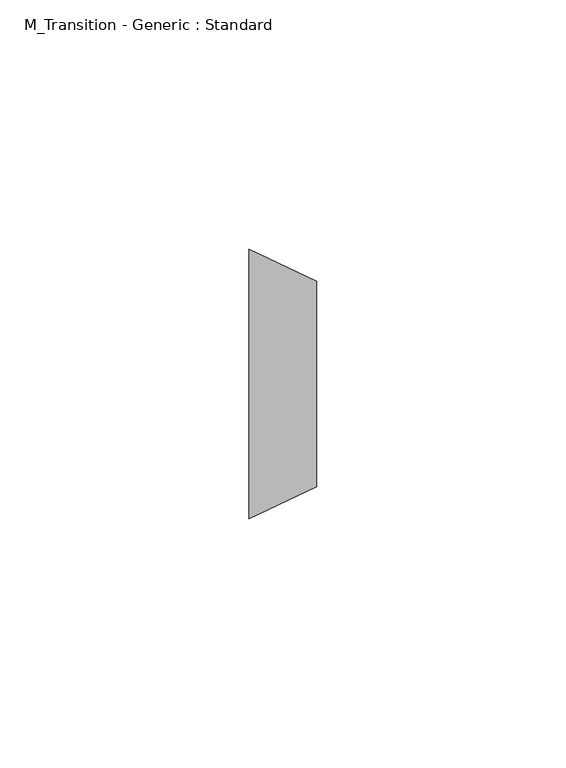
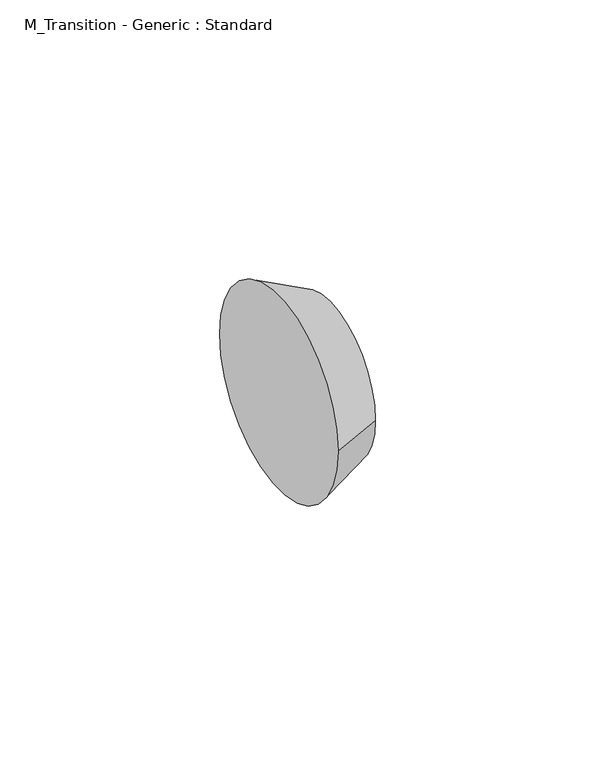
"""IFC4 building model written with IfcOpenShell, lengths in millimetres: pipe fitting geometry, M_Transition - Generic : Standard."""

from ifc_helpers import new_model, si_unit, frame, origin, place, context, project, spatial, polyline, circle_curve, source, transform, mapped, element, save
from ifc_brep_helpers import plane_surface, revolved_surface, advanced_brep


def m_transition_generic_standard_974af0e1(model_context):
    return source(origin(), model_context, "Body", "AdvancedBrep", [
        advanced_brep(
        [(13.49375, -20.6375, 0.0), (13.49375, 20.6375, 0.0), (0.0, -26.9875, 0.0), (0.0, 26.9875, 0.0)],
        [
            (0, 1, circle_curve(frame((13.49375, 0.0, 0.0), z_axis=(1.0, 0.0, 0.0), x_axis=(0.0, -1.0, 0.0)), 20.6375)),
            (1, 0, circle_curve(frame((13.49375, 0.0, 0.0), z_axis=(1.0, 0.0, 0.0), x_axis=(0.0, 1.0, 0.0)), 20.6375)),
            (2, 3, circle_curve(frame((0.0, 0.0, 0.0), z_axis=(-1.0, 0.0, 0.0), x_axis=(0.0, 1.0, 0.0)), 26.9875)),
            (3, 2, circle_curve(frame((0.0, 0.0, 0.0), z_axis=(-1.0, 0.0, 0.0), x_axis=(0.0, -1.0, 0.0)), 26.9875)),
            (3, 1),
            (0, 2),
        ],
        [
            plane_surface(frame((13.49375, 0.0, 0.0), z_axis=(1.0, 0.0, 0.0), x_axis=(0.0, 0.0, -1.0))),
            plane_surface(frame((0.0, 0.0, 0.0), z_axis=(-1.0, 0.0, 0.0), x_axis=(0.0, 0.0, -1.0))),
            revolved_surface(polyline([(13.493749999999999, -20.637500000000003, 0.0), (0.0, -26.9875, 0.0)]), (57.3484375, 0.0, 0.0), (-1.0, 0.0, 0.0)),
            revolved_surface(polyline([(13.493749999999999, 20.637500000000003, 0.0), (0.0, 26.9875, 0.0)]), (57.3484375, 0.0, 0.0), (-1.0, 0.0, 0.0)),
        ],
        [
            (0, [[1, 2]]),
            (1, [[3, 4]]),
            (2, [[-4, 5, -1, 6]]),
            (3, [[-3, -6, -2, -5]]),
        ],
    ),
    ])


if __name__ == "__main__":
    model = new_model("IFC4")
    model_context = context("Model", 3, world=origin())
    ifc_project = project(units=[si_unit("LENGTHUNIT", "METRE", prefix="MILLI")], contexts=[model_context])
    site = spatial("IfcSite", under=ifc_project)
    building = spatial("IfcBuilding", under=site)
    placement = place(None, origin())
    m_transition_generic_standard_shape = m_transition_generic_standard_974af0e1(model_context)
    element("IfcPipeFitting", 1, ObjectType="M_Transition - Generic : Standard", at=placement, inside=building, context=model_context, shape_type="MappedRepresentation", body=[
        mapped(m_transition_generic_standard_shape, transform((0.0, 0.0, 0.0), x_axis=(1.0, 0.0, 0.0), y_axis=(0.0, 1.0, 0.0), z_axis=(0.0, 0.0, 1.0))),
    ])
    save(model, "model.ifc")
